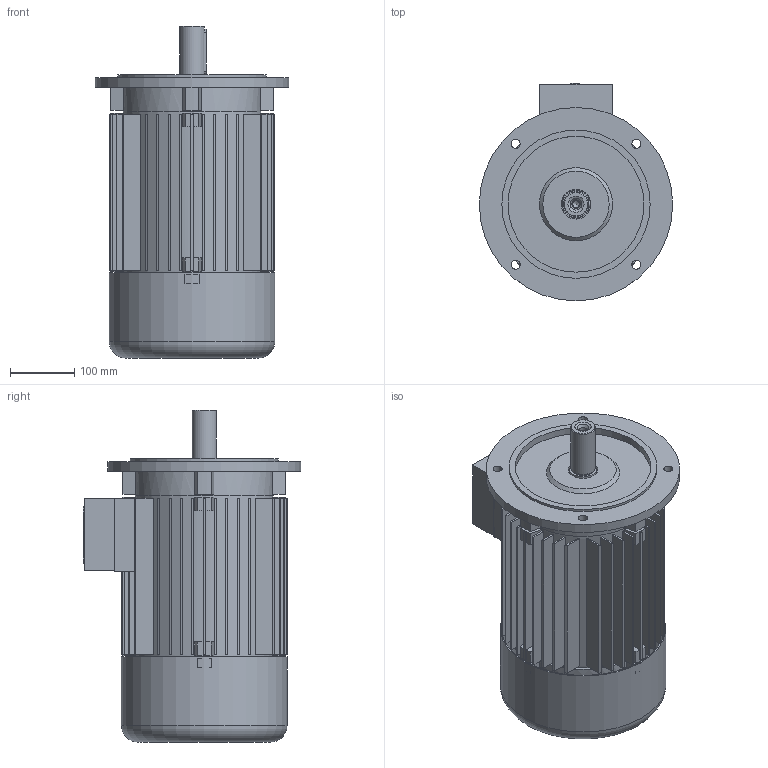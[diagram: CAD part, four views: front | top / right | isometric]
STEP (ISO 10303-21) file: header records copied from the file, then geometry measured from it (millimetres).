
FILE_DESCRIPTION (( 'STEP AP214' ), '1' );
FILE_NAME ('20.18276-B 5AZ 132M B5 STANDK.STEP', '2020-07-08T07:43:33', ( '' ), ( '' ), 'SwSTEP 2.0', 'SolidWorks 2020', '' );
FILE_SCHEMA (( 'AUTOMOTIVE_DESIGN' ));
Length unit declared in the file: millimetre
Products named in the file (1): 20.18276-B 5AZ 132M B5 STANDK
Bounding box: 300 x 338 x 515 mm (x, y, z)
Volume: 5927131.5 mm3; surface area: 1527535.3 mm2
Topology: 7 solids, 7 shells, 420 faces, 1053 edges, 701 vertices
Faces by surface type: plane 314, cylinder 95, cone 9, torus 2
Full cylindrical faces by diameter (mm): 10.5 x1, 13 x1, 14 x4, 36.4 x1, 38 x1, 42 x1, 46 x2, 91.786 x1, 92.143 x1, 113.36 x1, 113.76 x1, 197.5 x1, 198.16 x1, 202.16 x1, 210.833 x1, 214 x2, 222 x1, 230 x1, 253 x1, 257 x1, 300 x1
Entity records: 12463 total; most frequent: CARTESIAN_POINT 2202, DIRECTION 2153, ORIENTED_EDGE 2000, EDGE_CURVE 1000, AXIS2_PLACEMENT_3D 742, VERTEX_POINT 687, LINE 669, VECTOR 669
